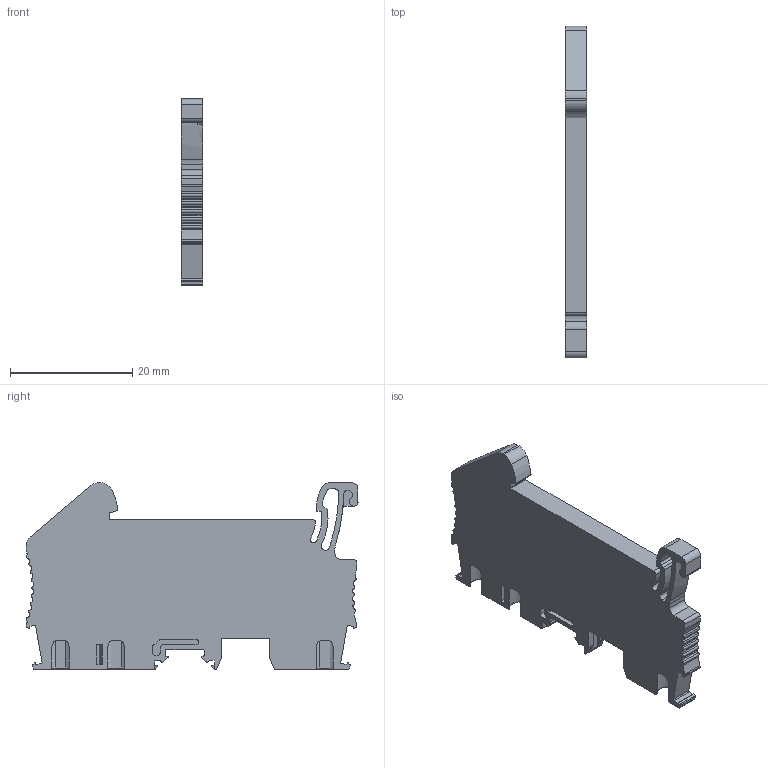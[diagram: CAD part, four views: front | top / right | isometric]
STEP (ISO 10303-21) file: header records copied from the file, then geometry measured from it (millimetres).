
FILE_DESCRIPTION((''),'2;1');
FILE_NAME('UPT-1_5-1-2_ASSY','2024-03-29T15:29:44',('Administrator'),(''),'CREO PARAMETRIC BY PTC INC, 2018050','CREO PARAMETRIC BY PTC INC, 2018050','');
FILE_SCHEMA(('CONFIG_CONTROL_DESIGN'));
Length unit declared in the file: millimetre
Products named in the file (1): UPT-1_5-1-2_ASSY
Bounding box: 3.5 x 54.3 x 30.5 mm (x, y, z)
Volume: 3840.7 mm3; surface area: 4432 mm2
Topology: 1 solids, 5 shells, 1071 faces, 2928 edges, 1829 vertices
Faces by surface type: plane 477, cylinder 426, torus 54, sphere 48, cone 45, extrusion 12, bspline 9
Entity records: 36053 total; most frequent: CARTESIAN_POINT 8926, ORIENTED_EDGE 5766, DIRECTION 5671, EDGE_CURVE 2883, AXIS2_PLACEMENT_3D 1956, VERTEX_POINT 1829, VECTOR 1759, LINE 1747
